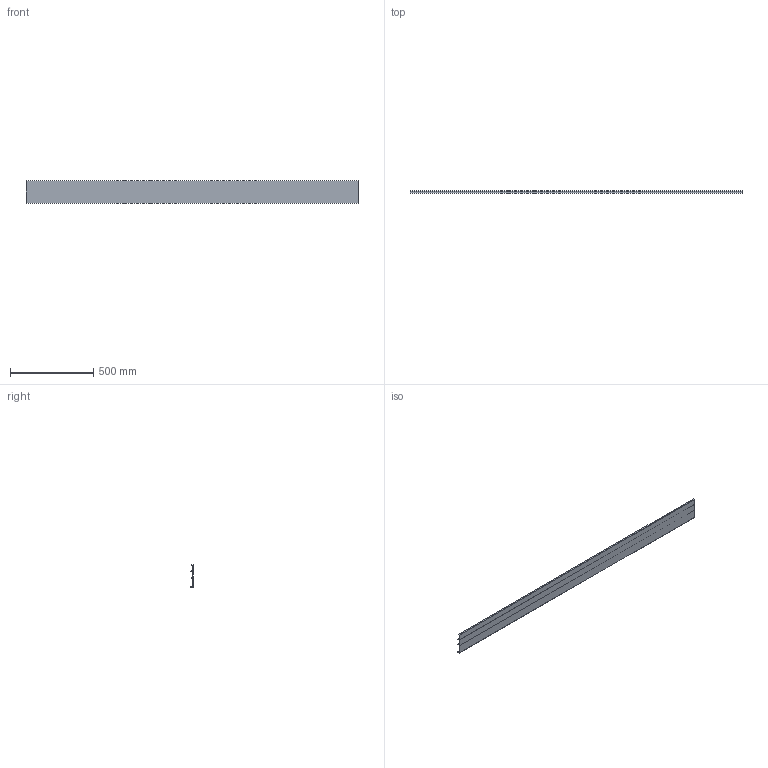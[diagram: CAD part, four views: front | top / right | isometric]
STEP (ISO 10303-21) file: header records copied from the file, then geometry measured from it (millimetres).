
FILE_DESCRIPTION(('STEP AP242'),'1');
FILE_NAME('OPO_65.084.41_volu_schn_3d.stp','2026-02-23T17:31:19',(' '),(' '),'Spatial InterOp 3D',' ',' ');
FILE_SCHEMA(('AP242_MANAGED_MODEL_BASED_3D_ENGINEERING_MIM_LF {1 0 10303 442 1 1 4}'));
Length unit declared in the file: millimetre
Products named in the file (1): 1
Bounding box: 2000 x 14 x 133 mm (x, y, z)
Volume: 531664.2 mm3; surface area: 716459.1 mm2
Topology: 1 solids, 1 shells, 63 faces, 315 edges, 404 vertices
Faces by surface type: plane 43, cylinder 20
Entity records: 4266 total; most frequent: DIRECTION 505, CARTESIAN_POINT 492, ORIENTED_EDGE 338, LINE 255, VECTOR 255, STYLED_ITEM 209, PRESENTATION_STYLE_ASSIGNMENT 209, COLOUR_RGB 209
